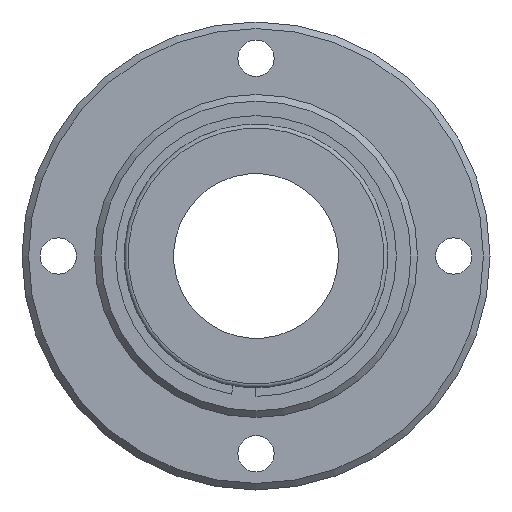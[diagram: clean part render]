
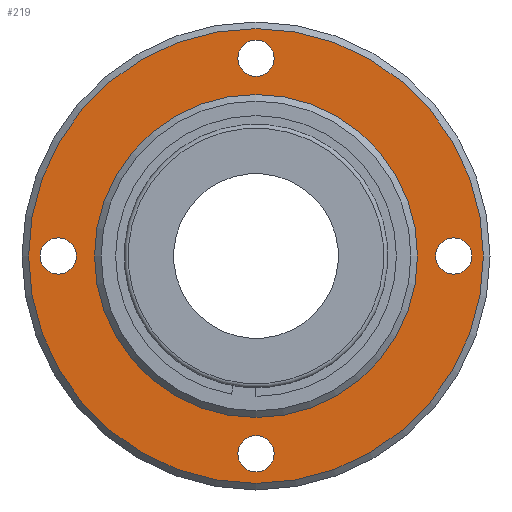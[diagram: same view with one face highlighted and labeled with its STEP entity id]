
A CAD part, left-side view. The second image highlights one B-rep face of the part: STEP entity #219.
In plain terms, the highlighted planar face has unit normal (-1, 0, 0).
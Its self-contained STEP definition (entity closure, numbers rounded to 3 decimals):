
#219=ADVANCED_FACE('',(#262,#263,#264,#265,#266,#267),#268,.T.);
#262=FACE_BOUND('',#384,.T.);
#263=FACE_BOUND('',#385,.T.);
#264=FACE_BOUND('',#386,.T.);
#265=FACE_BOUND('',#387,.T.);
#266=FACE_OUTER_BOUND('',#388,.T.);
#267=FACE_BOUND('',#389,.T.);
#268=PLANE('',#390);
#384=EDGE_LOOP('',(#506));
#385=EDGE_LOOP('',(#507));
#386=EDGE_LOOP('',(#508));
#387=EDGE_LOOP('',(#509));
#388=EDGE_LOOP('',(#510));
#389=EDGE_LOOP('',(#511));
#390=AXIS2_PLACEMENT_3D('',#512,#513,#514);
#506=ORIENTED_EDGE('',*,*,#748,.F.);
#507=ORIENTED_EDGE('',*,*,#749,.F.);
#508=ORIENTED_EDGE('',*,*,#750,.F.);
#509=ORIENTED_EDGE('',*,*,#751,.F.);
#510=ORIENTED_EDGE('',*,*,#752,.T.);
#511=ORIENTED_EDGE('',*,*,#753,.F.);
#512=CARTESIAN_POINT('',(-5.0,24.5,0.0));
#513=DIRECTION('',(-1.0,0.0,0.0));
#514=DIRECTION('',(0.0,0.0,1.0));
#748=EDGE_CURVE('',#806,#806,#807,.T.);
#749=EDGE_CURVE('',#808,#808,#809,.T.);
#750=EDGE_CURVE('',#810,#810,#811,.T.);
#751=EDGE_CURVE('',#812,#812,#813,.T.);
#752=EDGE_CURVE('',#814,#814,#815,.T.);
#753=EDGE_CURVE('',#816,#816,#817,.T.);
#806=VERTEX_POINT('',#914);
#807=CIRCLE('',#915,2.75);
#808=VERTEX_POINT('',#916);
#809=CIRCLE('',#917,2.75);
#810=VERTEX_POINT('',#918);
#811=CIRCLE('',#919,2.75);
#812=VERTEX_POINT('',#920);
#813=CIRCLE('',#921,2.75);
#814=VERTEX_POINT('',#922);
#815=CIRCLE('',#923,34.5);
#816=VERTEX_POINT('',#924);
#817=CIRCLE('',#925,24.5);
#914=CARTESIAN_POINT('',(-5.0,0.0,32.75));
#915=AXIS2_PLACEMENT_3D('',#1038,#1039,#1040);
#916=CARTESIAN_POINT('',(-5.0,0.0,-27.25));
#917=AXIS2_PLACEMENT_3D('',#1041,#1042,#1043);
#918=CARTESIAN_POINT('',(-5.0,30.0,2.75));
#919=AXIS2_PLACEMENT_3D('',#1044,#1045,#1046);
#920=CARTESIAN_POINT('',(-5.0,-30.0,2.75));
#921=AXIS2_PLACEMENT_3D('',#1047,#1048,#1049);
#922=CARTESIAN_POINT('',(-5.0,0.0,34.5));
#923=AXIS2_PLACEMENT_3D('',#1050,#1051,#1052);
#924=CARTESIAN_POINT('',(-5.0,0.0,24.5));
#925=AXIS2_PLACEMENT_3D('',#1053,#1054,#1055);
#1038=CARTESIAN_POINT('',(-5.0,0.0,30.0));
#1039=DIRECTION('',(-1.0,0.0,0.0));
#1040=DIRECTION('',(0.0,0.0,1.0));
#1041=CARTESIAN_POINT('',(-5.0,0.0,-30.0));
#1042=DIRECTION('',(-1.0,0.0,0.0));
#1043=DIRECTION('',(0.0,0.0,1.0));
#1044=CARTESIAN_POINT('',(-5.0,30.0,0.0));
#1045=DIRECTION('',(-1.0,0.0,0.0));
#1046=DIRECTION('',(0.0,0.0,1.0));
#1047=CARTESIAN_POINT('',(-5.0,-30.0,0.0));
#1048=DIRECTION('',(-1.0,0.0,0.0));
#1049=DIRECTION('',(0.0,0.0,1.0));
#1050=CARTESIAN_POINT('',(-5.0,0.0,0.0));
#1051=DIRECTION('',(-1.0,0.0,0.0));
#1052=DIRECTION('',(0.0,0.0,1.0));
#1053=CARTESIAN_POINT('',(-5.0,0.0,0.0));
#1054=DIRECTION('',(-1.0,0.0,0.0));
#1055=DIRECTION('',(0.0,0.0,1.0));
